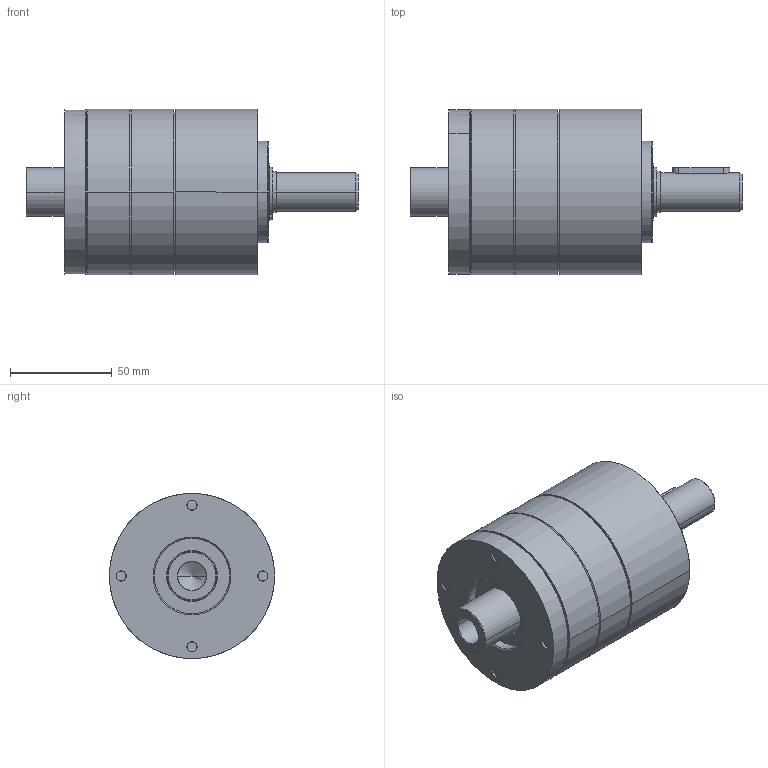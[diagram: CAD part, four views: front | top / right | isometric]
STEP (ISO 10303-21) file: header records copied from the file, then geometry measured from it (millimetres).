
FILE_DESCRIPTION((''),'2;1');
FILE_NAME('IMS81_PRO_2_STAGE_ASM','2024-09-02T13:09:57',('mhummel'),(''),'CREO PARAMETRIC BY PTC INC, 2020184','CREO PARAMETRIC BY PTC INC, 2020184','');
FILE_SCHEMA(('AUTOMOTIVE_DESIGN { 1 0 10303 214 1 1 1 1 }'));
Length unit declared in the file: millimetre
Products named in the file (14): IMS81_PRO_BEARING_FLANGE; IMS81_PRO_BALL_BEARING; IMS81_PRO_RING_GEAR_2_STAGE; IMS81_PRO_MOTOR_FLANGE; IMS81_PRO_SHIM_RING; IMS81_PRO_SHAFT_RAW_AF0; IMS81_PRO_SHAFT_ASM; IMS81_PRO_RETAINING_RING_A; IMS81_PRO_FEATHER_KEY; IMS81_PRO_THRUST_WASHER_1_STAGE; IMS81_PRO_SCREW_2_STAGE; IMS81_PRO_PINION_LONG; IMS81_PRO_PINION_SHORT; IMS81_PRO_2_STAGE_ASM
Assembly tree (17 placements, depth 3):
  IMS81_PRO_2_STAGE_ASM
    IMS81_PRO_BEARING_FLANGE
    IMS81_PRO_BALL_BEARING  x2
    IMS81_PRO_RING_GEAR_2_STAGE
    IMS81_PRO_MOTOR_FLANGE
    IMS81_PRO_SHIM_RING
    IMS81_PRO_SHAFT_ASM
      IMS81_PRO_SHAFT_RAW_AF0
    IMS81_PRO_RETAINING_RING_A
    IMS81_PRO_FEATHER_KEY
    IMS81_PRO_THRUST_WASHER_1_STAGE
    IMS81_PRO_SCREW_2_STAGE  x4
    IMS81_PRO_PINION_LONG
    IMS81_PRO_PINION_SHORT
Bounding box: 162.8 x 81 x 81 mm (x, y, z)
Volume: 393110.9 mm3; surface area: 119980.2 mm2
Topology: 20 solids, 22 shells, 404 faces, 861 edges, 514 vertices
Faces by surface type: cylinder 158, plane 96, cone 96, torus 54
Entity records: 11980 total; most frequent: DIRECTION 1743, CARTESIAN_POINT 1489, ORIENTED_EDGE 1326, AXIS2_PLACEMENT_3D 738, PRESENTATION_STYLE_ASSIGNMENT 728, STYLED_ITEM 709, CURVE_STYLE 663, EDGE_CURVE 663
